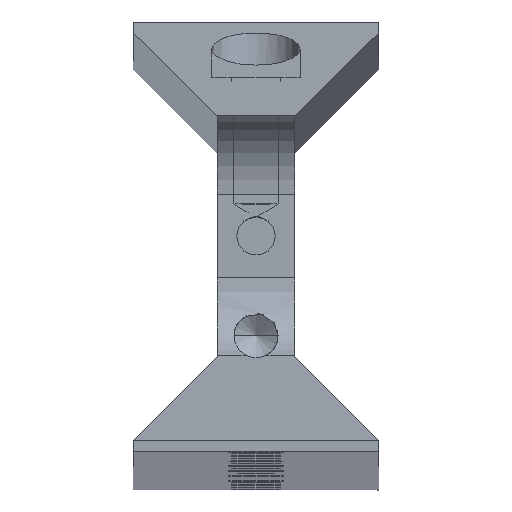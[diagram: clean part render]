
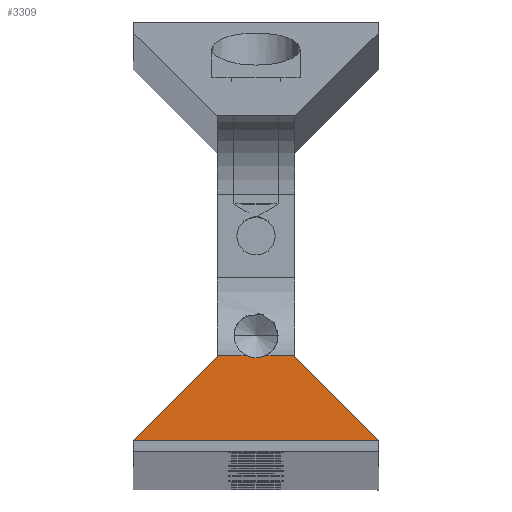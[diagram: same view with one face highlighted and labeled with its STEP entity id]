
A CAD part, top view. The second image highlights one B-rep face of the part: STEP entity #3309.
In plain terms, the highlighted planar face has unit normal (0, 0.94, 0.342).
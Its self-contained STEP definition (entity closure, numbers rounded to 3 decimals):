
#99=PLANE('',#3714);
#113=LINE('',#4911,#320);
#115=LINE('',#4918,#322);
#295=LINE('',#5775,#502);
#296=LINE('',#5777,#503);
#297=LINE('',#5779,#504);
#298=LINE('',#5781,#505);
#299=LINE('',#5782,#506);
#320=VECTOR('',#3779,2.7);
#322=VECTOR('',#3785,2.7);
#502=VECTOR('',#4693,0.196);
#503=VECTOR('',#4694,23.485);
#504=VECTOR('',#4695,22.2);
#505=VECTOR('',#4696,23.485);
#506=VECTOR('',#4697,0.196);
#527=ELLIPSE('',#3347,5.848,2.);
#979=FACE_OUTER_BOUND('',#1274,.T.);
#1274=EDGE_LOOP('',(#2888,#2889,#2890,#2891,#2892,#2893,#2894,#2895));
#1568=VERTEX_POINT('',#4876);
#1569=VERTEX_POINT('',#4877);
#1570=VERTEX_POINT('',#4910);
#1573=VERTEX_POINT('',#4916);
#1855=VERTEX_POINT('',#5774);
#1856=VERTEX_POINT('',#5776);
#1857=VERTEX_POINT('',#5778);
#1858=VERTEX_POINT('',#5780);
#1882=EDGE_CURVE('',#1568,#1569,#527,.T.);
#1884=EDGE_CURVE('',#1568,#1570,#113,.T.);
#1888=EDGE_CURVE('',#1573,#1569,#115,.T.);
#2255=EDGE_CURVE('',#1855,#1573,#295,.T.);
#2256=EDGE_CURVE('',#1856,#1855,#296,.T.);
#2257=EDGE_CURVE('',#1857,#1856,#297,.T.);
#2258=EDGE_CURVE('',#1858,#1857,#298,.T.);
#2259=EDGE_CURVE('',#1570,#1858,#299,.T.);
#2888=ORIENTED_EDGE('',*,*,#1882,.T.);
#2889=ORIENTED_EDGE('',*,*,#1888,.F.);
#2890=ORIENTED_EDGE('',*,*,#2255,.F.);
#2891=ORIENTED_EDGE('',*,*,#2256,.F.);
#2892=ORIENTED_EDGE('',*,*,#2257,.F.);
#2893=ORIENTED_EDGE('',*,*,#2258,.F.);
#2894=ORIENTED_EDGE('',*,*,#2259,.F.);
#2895=ORIENTED_EDGE('',*,*,#1884,.F.);
#3309=ADVANCED_FACE('',(#979),#99,.F.);
#3347=AXIS2_PLACEMENT_3D('',#4878,#3775,#3776);
#3714=AXIS2_PLACEMENT_3D('',#5773,#4691,#4692);
#3775=DIRECTION('center_axis',(0.,-0.94,-0.342));
#3776=DIRECTION('ref_axis',(0.,0.342,-0.94));
#3779=DIRECTION('',(1.,0.,0.));
#3785=DIRECTION('',(1.,0.,0.));
#4691=DIRECTION('center_axis',(0.,-0.94,-0.342));
#4692=DIRECTION('ref_axis',(0.,0.342,-0.94));
#4693=DIRECTION('',(0.,0.342,-0.94));
#4694=DIRECTION('',(0.324,0.324,-0.889));
#4695=DIRECTION('',(-1.,0.,0.));
#4696=DIRECTION('',(0.324,-0.324,0.889));
#4697=DIRECTION('',(0.,-0.342,0.94));
#4876=CARTESIAN_POINT('',(0.8,8.667,2005.035));
#4877=CARTESIAN_POINT('',(-0.8,8.667,2005.035));
#4878=CARTESIAN_POINT('Origin',(0.,10.5,1999.999));
#4910=CARTESIAN_POINT('',(3.5,8.667,2005.035));
#4911=CARTESIAN_POINT('',(0.,8.667,2005.035));
#4916=CARTESIAN_POINT('',(-3.5,8.667,2005.035));
#4918=CARTESIAN_POINT('',(0.,8.667,2005.035));
#5773=CARTESIAN_POINT('Origin',(0.,8.667,2005.035));
#5774=CARTESIAN_POINT('',(-3.5,8.6,2005.219));
#5775=CARTESIAN_POINT('',(-3.5,330.866,1119.8));
#5776=CARTESIAN_POINT('',(-11.1,1.,2026.1));
#5777=CARTESIAN_POINT('',(284.403,296.503,1214.211));
#5778=CARTESIAN_POINT('',(11.1,1.,2026.1));
#5779=CARTESIAN_POINT('',(0.,1.,2026.1));
#5780=CARTESIAN_POINT('',(3.5,8.6,2005.219));
#5781=CARTESIAN_POINT('',(-285.199,297.299,1212.024));
#5782=CARTESIAN_POINT('',(3.5,332.141,1116.297));
